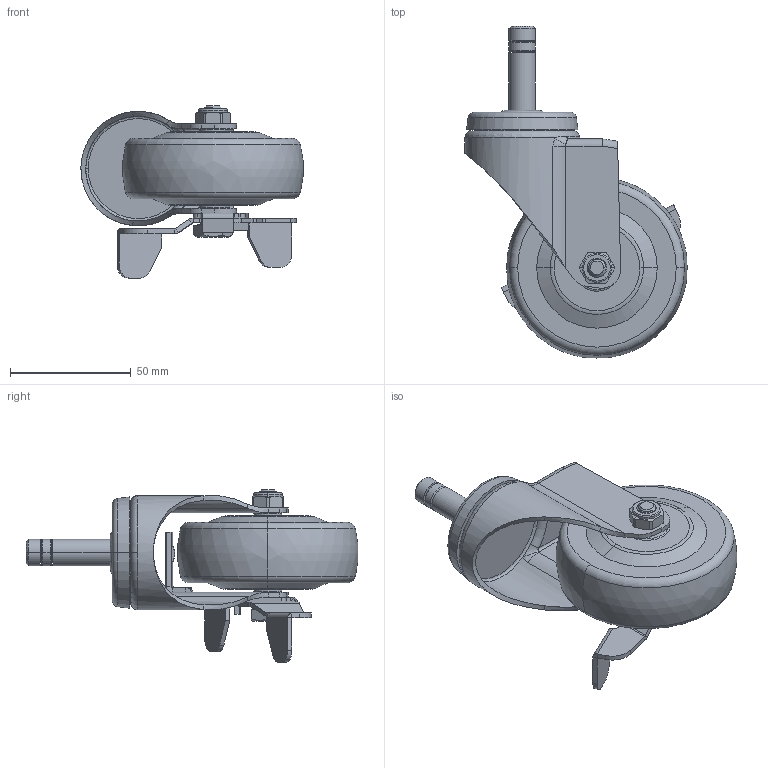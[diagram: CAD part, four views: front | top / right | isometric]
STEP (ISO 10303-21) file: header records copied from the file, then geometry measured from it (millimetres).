
FILE_DESCRIPTION((''),'2;1');
FILE_NAME('36163C-363-64_ASM','2020-01-05T',('L'),(''),'PRO/ENGINEER BY PARAMETRIC TECHNOLOGY CORPORATION, 2010280','PRO/ENGINEER BY PARAMETRIC TECHNOLOGY CORPORATION, 2010280','');
FILE_SCHEMA(('CONFIG_CONTROL_DESIGN'));
Length unit declared in the file: millimetre
Products named in the file (7): 36163C; 363-964; 302-33; 300-34; 303-15; 300-14; 36163C-363-64_ASM
Assembly tree (6 placements, depth 2):
  36163C-363-64_ASM
    36163C
    363-964
    302-33
    300-34
    303-15
    300-14
Bounding box: 92.11 x 137.66 x 71.4 mm (x, y, z)
Volume: 151340.9 mm3; surface area: 43918.6 mm2
Topology: 7 solids, 7 shells, 369 faces, 858 edges, 522 vertices
Faces by surface type: plane 138, cylinder 123, bspline 44, torus 38, cone 26
Entity records: 15900 total; most frequent: CARTESIAN_POINT 7528, ORIENTED_EDGE 1716, DIRECTION 1690, EDGE_CURVE 858, AXIS2_PLACEMENT_3D 646, VERTEX_POINT 522, EDGE_LOOP 402, VECTOR 398
